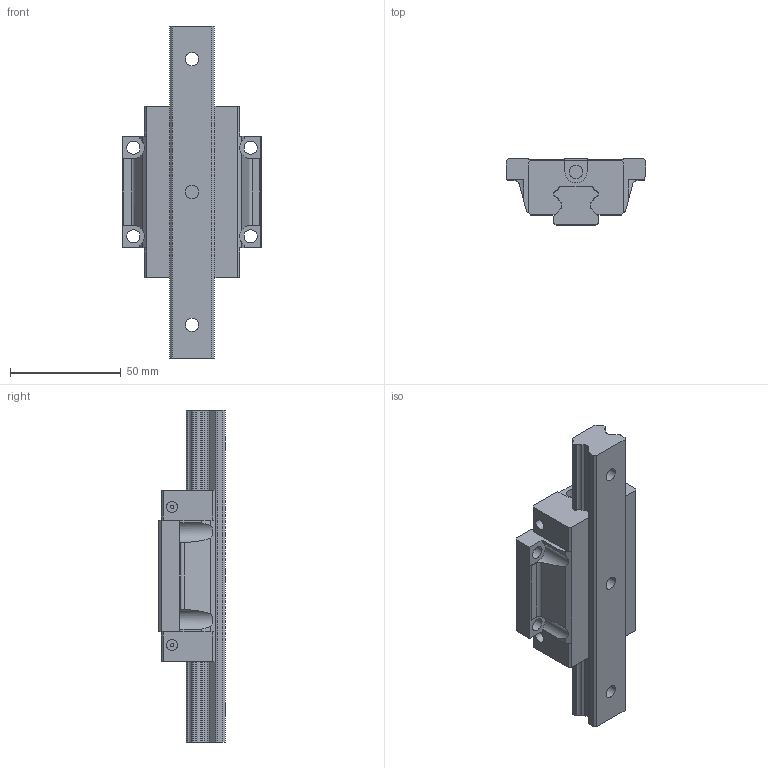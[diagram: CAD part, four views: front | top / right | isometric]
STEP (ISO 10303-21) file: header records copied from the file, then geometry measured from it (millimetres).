
FILE_DESCRIPTION((''),'2;1');
FILE_NAME('QHW20CC_ASM','2008-07-11T',('tzuyu'),(''),'PRO/ENGINEER BY PARAMETRIC TECHNOLOGY CORPORATION, 2004360','PRO/ENGINEER BY PARAMETRIC TECHNOLOGY CORPORATION, 2004360','');
FILE_SCHEMA(('CONFIG_CONTROL_DESIGN'));
Length unit declared in the file: millimetre
Products named in the file (5): HGR20_1; QHW20CA_1; QHW20C-1_ASM_2_ASM; QHW20C_ASM_2_ASM; QHW20CC_ASM
Assembly tree (4 placements, depth 4):
  QHW20CC_ASM
    QHW20C_ASM_2_ASM
      QHW20C-1_ASM_2_ASM
        HGR20_1
        QHW20CA_1
Bounding box: 63 x 30 x 150 mm (x, y, z)
Volume: 118863.7 mm3; surface area: 31242.3 mm2
Topology: 2 solids, 2 shells, 209 faces, 612 edges, 420 vertices
Faces by surface type: plane 115, cylinder 94
Entity records: 7276 total; most frequent: CARTESIAN_POINT 1320, DIRECTION 1262, ORIENTED_EDGE 1224, EDGE_CURVE 612, AXIS2_PLACEMENT_3D 445, VERTEX_POINT 420, VECTOR 372, LINE 372
